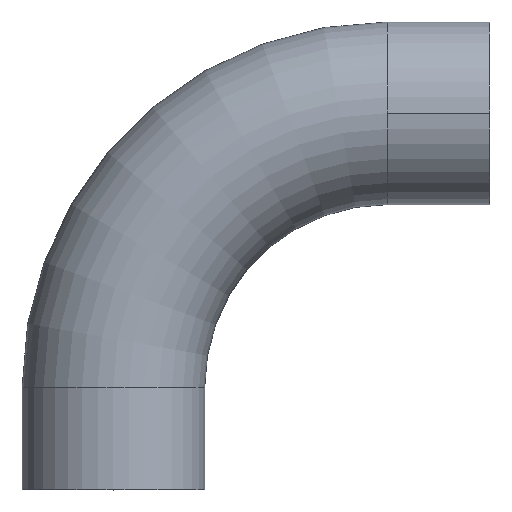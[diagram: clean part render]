
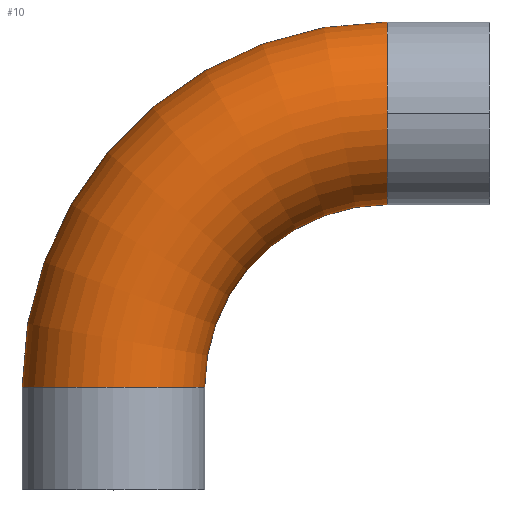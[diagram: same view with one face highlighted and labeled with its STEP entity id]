
A CAD part, top view. The second image highlights one B-rep face of the part: STEP entity #10.
In plain terms, the highlighted toroidal (fillet/blend) face has major radius 38.1 mm and minor radius 12.7 mm.
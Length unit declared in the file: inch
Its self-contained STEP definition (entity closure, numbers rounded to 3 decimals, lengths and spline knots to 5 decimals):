
#1 = DIRECTION ( 'NONE',  ( 0., -1., 0. ) ) ;
#10 = ADVANCED_FACE ( 'NONE', ( #476 ), #317, .T. ) ;
#18 = DIRECTION ( 'NONE',  ( -1., 0., 0. ) ) ;
#21 = CARTESIAN_POINT ( 'NONE',  ( 1.5, 0., 0. ) ) ;
#32 = ORIENTED_EDGE ( 'NONE', *, *, #287, .F. ) ;
#36 = ORIENTED_EDGE ( 'NONE', *, *, #334, .F. ) ;
#46 = CIRCLE ( 'NONE', #207, 0.5 ) ;
#57 = VERTEX_POINT ( 'NONE', #156 ) ;
#66 = DIRECTION ( 'NONE',  ( 0., 0., -1. ) ) ;
#80 = ORIENTED_EDGE ( 'NONE', *, *, #398, .T. ) ;
#83 = ORIENTED_EDGE ( 'NONE', *, *, #345, .T. ) ;
#109 = DIRECTION ( 'NONE',  ( 1., 0., 0. ) ) ;
#112 = DIRECTION ( 'NONE',  ( 0., -1., 0. ) ) ;
#114 = CARTESIAN_POINT ( 'NONE',  ( 0., -1.5, 0. ) ) ;
#126 = VERTEX_POINT ( 'NONE', #493 ) ;
#156 = CARTESIAN_POINT ( 'NONE',  ( 1.5, -0.5, 0. ) ) ;
#170 = EDGE_LOOP ( 'NONE', ( #32, #36, #444, #80, #83 ) ) ;
#171 = AXIS2_PLACEMENT_3D ( 'NONE', #426, #424, #405 ) ;
#183 = CIRCLE ( 'NONE', #204, 0.5 ) ;
#198 = CARTESIAN_POINT ( 'NONE',  ( 1.5, 0., 0.5 ) ) ;
#204 = AXIS2_PLACEMENT_3D ( 'NONE', #114, #112, #109 ) ;
#207 = AXIS2_PLACEMENT_3D ( 'NONE', #21, #18, #1 ) ;
#219 = AXIS2_PLACEMENT_3D ( 'NONE', #374, #365, #361 ) ;
#233 = AXIS2_PLACEMENT_3D ( 'NONE', #488, #485, #474 ) ;
#241 = VERTEX_POINT ( 'NONE', #489 ) ;
#261 = AXIS2_PLACEMENT_3D ( 'NONE', #473, #66, #367 ) ;
#282 = CIRCLE ( 'NONE', #233, 2. ) ;
#287 = EDGE_CURVE ( 'NONE', #126, #396, #282, .T. ) ;
#301 = EDGE_CURVE ( 'NONE', #241, #57, #468, .T. ) ;
#317 = TOROIDAL_SURFACE ( 'NONE', #261, 1.5, 0.5 ) ;
#329 = VERTEX_POINT ( 'NONE', #198 ) ;
#334 = EDGE_CURVE ( 'NONE', #241, #126, #183, .T. ) ;
#345 = EDGE_CURVE ( 'NONE', #329, #396, #46, .T. ) ;
#361 = DIRECTION ( 'NONE',  ( -1., 0., 0. ) ) ;
#364 = CIRCLE ( 'NONE', #171, 0.5 ) ;
#365 = DIRECTION ( 'NONE',  ( 0., 0., -1. ) ) ;
#367 = DIRECTION ( 'NONE',  ( -1., 0., 0. ) ) ;
#374 = CARTESIAN_POINT ( 'NONE',  ( 1.5, -1.5, 0. ) ) ;
#396 = VERTEX_POINT ( 'NONE', #440 ) ;
#398 = EDGE_CURVE ( 'NONE', #57, #329, #364, .T. ) ;
#405 = DIRECTION ( 'NONE',  ( 0., -1., 0. ) ) ;
#424 = DIRECTION ( 'NONE',  ( -1., 0., 0. ) ) ;
#426 = CARTESIAN_POINT ( 'NONE',  ( 1.5, 0., 0. ) ) ;
#440 = CARTESIAN_POINT ( 'NONE',  ( 1.5, 0.5, 0. ) ) ;
#444 = ORIENTED_EDGE ( 'NONE', *, *, #301, .T. ) ;
#468 = CIRCLE ( 'NONE', #219, 1. ) ;
#473 = CARTESIAN_POINT ( 'NONE',  ( 1.5, -1.5, 0. ) ) ;
#474 = DIRECTION ( 'NONE',  ( -1., 0., 0. ) ) ;
#476 = FACE_OUTER_BOUND ( 'NONE', #170, .T. ) ;
#485 = DIRECTION ( 'NONE',  ( 0., 0., -1. ) ) ;
#488 = CARTESIAN_POINT ( 'NONE',  ( 1.5, -1.5, 0. ) ) ;
#489 = CARTESIAN_POINT ( 'NONE',  ( 0.5, -1.5, 0. ) ) ;
#493 = CARTESIAN_POINT ( 'NONE',  ( -0.5, -1.5, 0. ) ) ;
